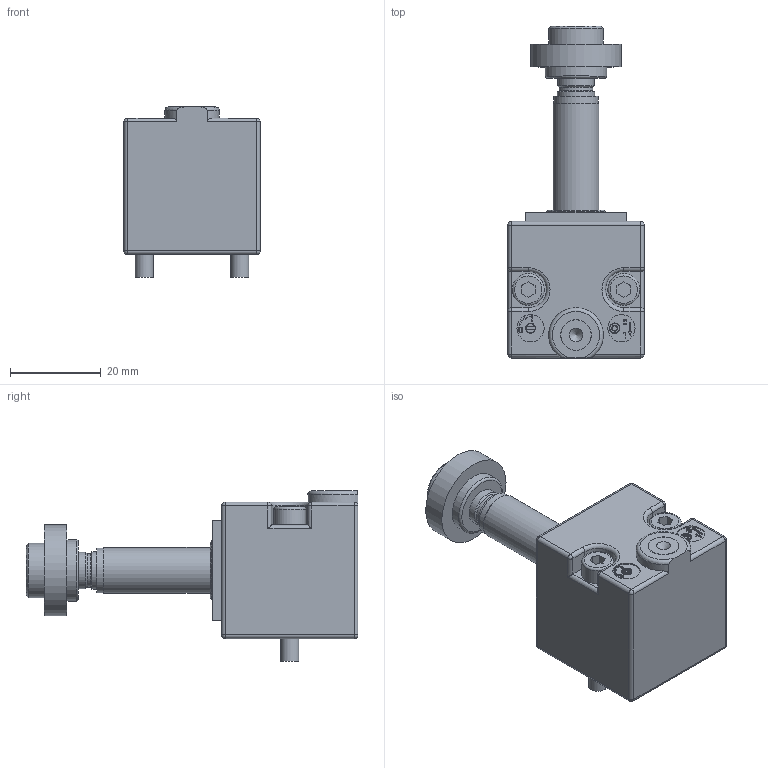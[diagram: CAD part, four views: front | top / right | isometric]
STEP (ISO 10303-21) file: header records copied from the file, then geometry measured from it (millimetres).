
FILE_DESCRIPTION( ( 'STEP AP203' ), '1' );
FILE_NAME( 'p:/temp/worker_142/temp/exporttempdir_1828_11_WxAP1/format_0/M3P.stp', '2021-02-05T06:11:37', ( 'License CC BY-ND 4.0' ), ( 'CADENAS' ), ' ', 'PARTsolutions', ' ' );
FILE_SCHEMA( ( 'CONFIG_CONTROL_DESIGN' ) );
Length unit declared in the file: millimetre
Products named in the file (1): _M3P
Bounding box: 30 x 73 x 37.55 mm (x, y, z)
Volume: 30410.5 mm3; surface area: 11501.3 mm2
Topology: 1 solids, 1 shells, 269 faces, 628 edges, 393 vertices
Faces by surface type: plane 165, cylinder 72, cone 14, sphere 12, torus 6
Full cylindrical faces by diameter (mm): 1.1 x1, 1.3 x1, 2.1 x1, 2.2 x1, 2.3 x1, 2.5 x2, 4 x2, 4.2 x2, 5.5 x4, 6 x2, 7 x2, 7.4 x1, 8 x1, 8.2 x1, 9.8 x1, 10.1 x1, 12 x1, 13 x1, 13.5 x1, 20 x1
Entity records: 7285 total; most frequent: CARTESIAN_POINT 1259, DIRECTION 1257, ORIENTED_EDGE 1124, EDGE_CURVE 562, AXIS2_PLACEMENT_3D 429, LINE 399, VECTOR 399, VERTEX_POINT 385
